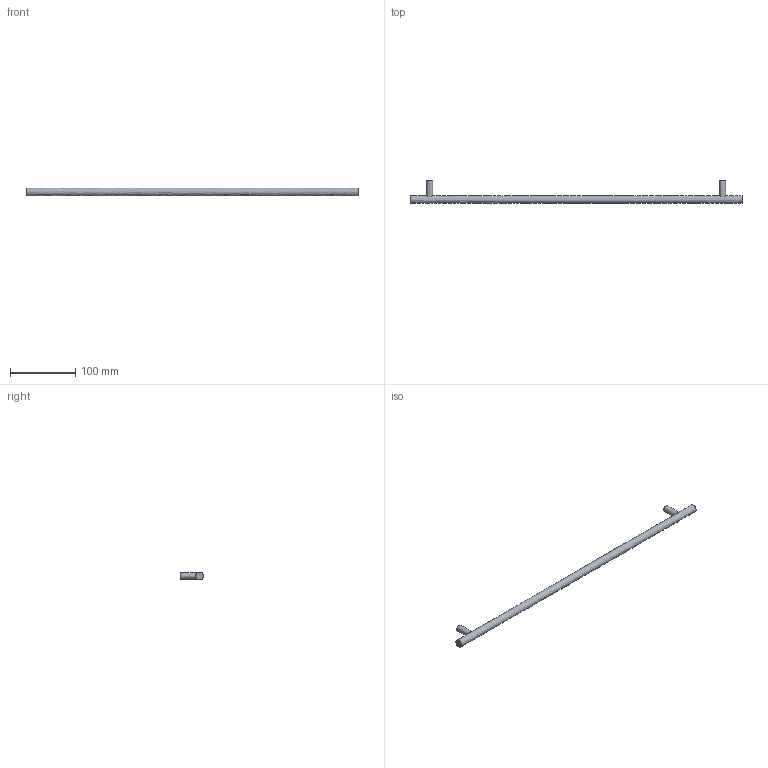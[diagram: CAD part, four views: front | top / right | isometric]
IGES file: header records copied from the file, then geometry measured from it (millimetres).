
Start section: Data from Parasolid IGES Translator 15.0.47, Copyright(c) 2006 Siemens P LM Software. All Rights Reserved.
Global section: file name: 9071026.igs; native system:  By UGS Corp.; preprocessor: XPlus GENERIC/IGES 3.0; author: Noname; organization: Noname; date: 20140122.181331; units: millimetre
Bounding box: 508 x 35 x 12 mm (x, y, z)
Surface area: 21182.7 mm2 (no closed solid volume)
Topology: 0 solids, 0 shells, 11 faces, 30 edges, 22 vertices
Faces by surface type: extrusion 6, revolution 5
